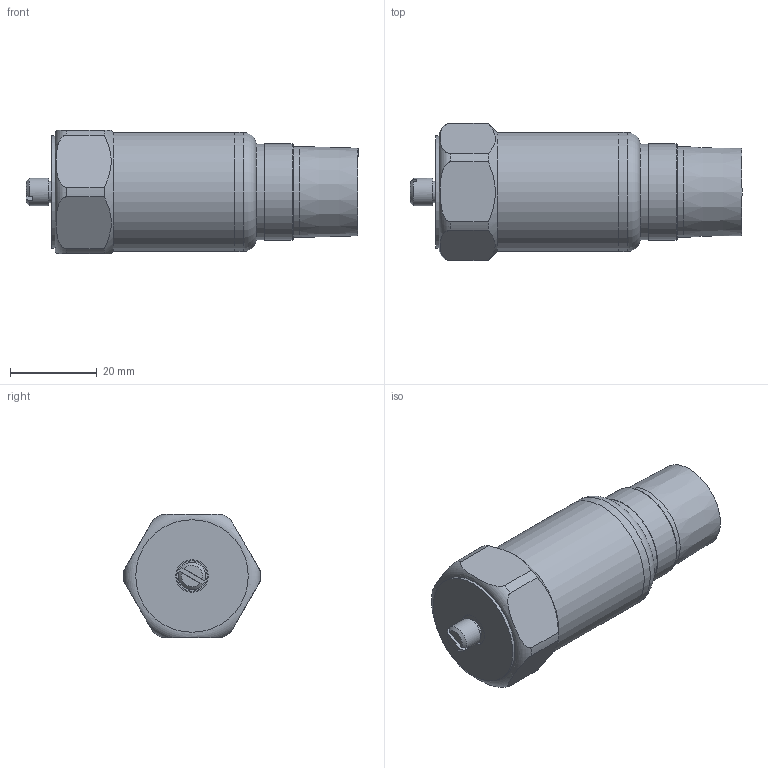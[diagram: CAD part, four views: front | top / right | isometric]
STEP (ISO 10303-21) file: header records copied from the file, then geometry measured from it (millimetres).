
FILE_DESCRIPTION(/* description */ (''),/* implementation_level */ '2;1');
FILE_NAME(/* name */ 'Z:\Engineering\Drawings\3D Library\Assemblies\Website\420 Velocity Top\HS-420XXX1202.stp',/* time_stamp */ '2023-05-03T13:52:13+01:00',/* author */ ('Ricardo.Peneda'),/* organization */ (''),/* preprocessor_version */ 'ST-DEVELOPER v18.1',/* originating_system */ 'Autodesk Inventor 2021',/* authorisation */ '');
FILE_SCHEMA (('AUTOMOTIVE_DESIGN { 1 0 10303 214 3 1 1 }'));
Length unit declared in the file: inch
Products named in the file (1): HS-420XXX1202_Shrinkwrap_1
Bounding box: 76.7 x 31.69 x 28.5 mm (x, y, z)
Volume: 18066.3 mm3; surface area: 12539.8 mm2
Topology: 4 solids, 4 shells, 76 faces, 201 edges, 146 vertices
Faces by surface type: plane 35, cylinder 27, cone 10, torus 4
Full cylindrical faces by diameter (mm): 3.241 x1, 4.914 x2, 6.3 x1, 6.34 x2, 7.027 x1, 7.5 x1, 14 x1, 18 x1, 19.95 x1, 20 x1, 21 x1, 22 x1, 22.2 x1, 23.3 x1, 25.3 x2, 26 x1, 27.5 x2
Entity records: 2704 total; most frequent: CARTESIAN_POINT 586, DIRECTION 457, ORIENTED_EDGE 402, EDGE_CURVE 201, AXIS2_PLACEMENT_3D 201, VERTEX_POINT 146, CIRCLE 124, EDGE_LOOP 93
